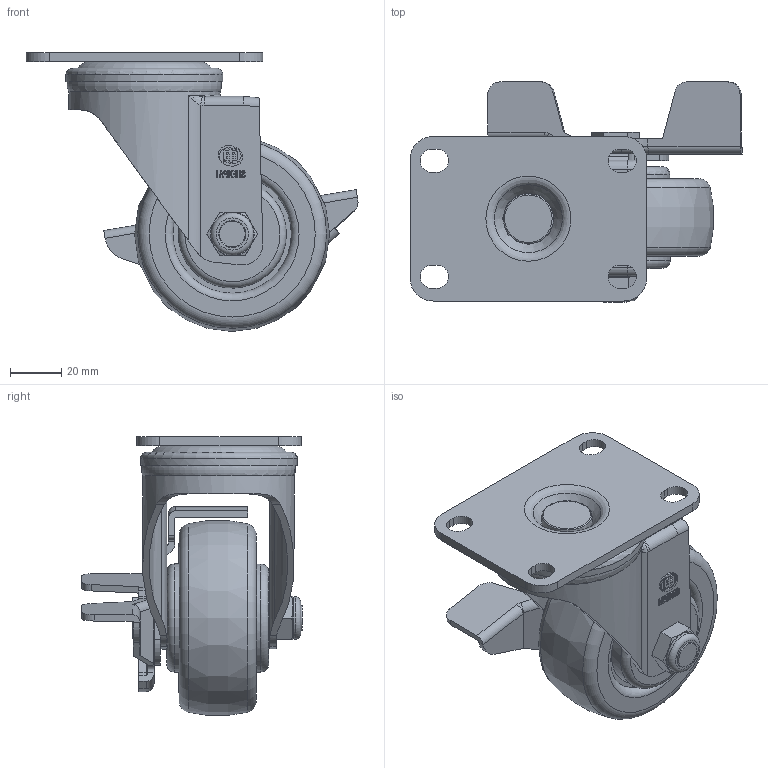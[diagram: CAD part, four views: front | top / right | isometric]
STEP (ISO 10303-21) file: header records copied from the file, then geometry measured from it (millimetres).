
FILE_DESCRIPTION(/* description */ (''),/* implementation_level */ '2;1');
FILE_NAME(/* name */ '20A37_3_F.stp',/* time_stamp */ '2023-08-04T10:31:25+08:00',/* author */ (''),/* organization */ (''),/* preprocessor_version */ 'ST-DEVELOPER v14',/* originating_system */ 'SIEMENS PLM Software NX 8.0',/* authorisation */ '');
FILE_SCHEMA (('AUTOMOTIVE_DESIGN { 1 0 10303 214 3 1 1 1 }'));
Length unit declared in the file: millimetre
Products named in the file (1): 20A37_3_F
Bounding box: 129.02 x 85.52 x 108.35 mm (x, y, z)
Volume: 206846.7 mm3; surface area: 92984.9 mm2
Topology: 1 solids, 3 shells, 684 faces, 2002 edges, 1311 vertices
Faces by surface type: plane 323, cylinder 163, sphere 74, torus 63, cone 48, bspline 13
Full cylindrical faces by diameter (mm): 4.1 x1, 6 x1, 10 x3, 10.3 x2, 11.2 x2, 12 x1, 12.2 x1, 12.496 x1, 13.2 x4, 16 x1, 16.5 x1, 17 x1, 20.8 x4, 23.2 x2, 24 x1, 30.122 x1, 33 x2, 41 x2, 42 x2, 45.996 x1, 46 x2, 54 x2, 56 x1, 57.6 x1, 59 x1, 61 x1
Entity records: 25818 total; most frequent: CARTESIAN_POINT 9851, ORIENTED_EDGE 3384, DIRECTION 3044, EDGE_CURVE 1692, AXIS2_PLACEMENT_3D 1224, VERTEX_POINT 1164, EDGE_LOOP 898, ADVANCED_FACE 678
